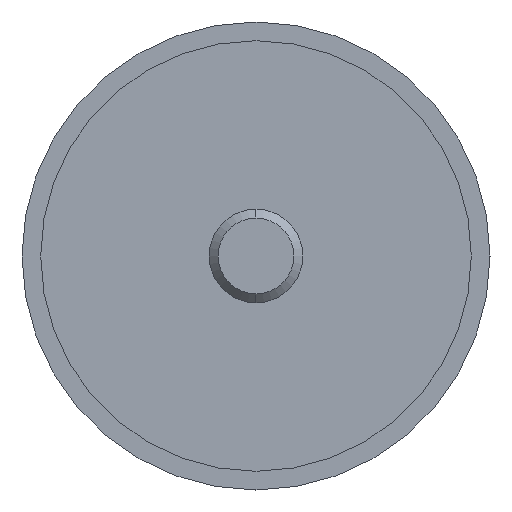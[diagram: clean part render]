
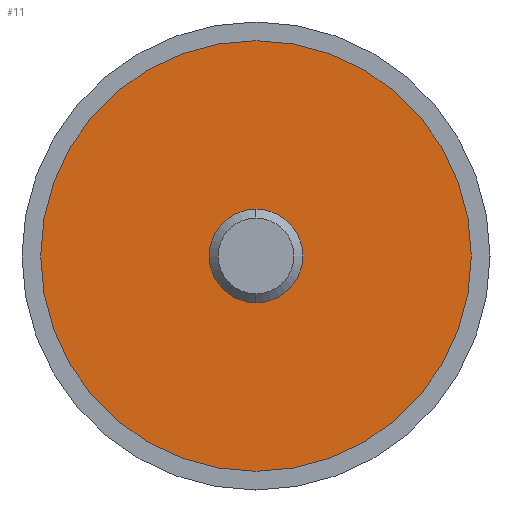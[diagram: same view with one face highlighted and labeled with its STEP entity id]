
A CAD part, left-side view. The second image highlights one B-rep face of the part: STEP entity #11.
In plain terms, the highlighted planar face has unit normal (-1, 0, 0).
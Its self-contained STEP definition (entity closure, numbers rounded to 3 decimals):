
#11 = ADVANCED_FACE ( 'NONE', ( #302, #249 ), #47, .F. ) ;
#34 = CARTESIAN_POINT ( 'NONE',  ( -24.99, 0., 0. ) ) ;
#42 = VERTEX_POINT ( 'NONE', #671 ) ;
#47 = PLANE ( 'NONE',  #540 ) ;
#56 = AXIS2_PLACEMENT_3D ( 'NONE', #395, #240, #89 ) ;
#89 = DIRECTION ( 'NONE',  ( 0., 0., -1. ) ) ;
#102 = CIRCLE ( 'NONE', #319, 5. ) ;
#114 = CARTESIAN_POINT ( 'NONE',  ( -24.99, 0., 0. ) ) ;
#129 = DIRECTION ( 'NONE',  ( -1., 0., 0. ) ) ;
#147 = DIRECTION ( 'NONE',  ( 0., 0., -1. ) ) ;
#154 = ORIENTED_EDGE ( 'NONE', *, *, #163, .T. ) ;
#163 = EDGE_CURVE ( 'NONE', #42, #272, #459, .T. ) ;
#167 = DIRECTION ( 'NONE',  ( 0., 0., 1. ) ) ;
#199 = DIRECTION ( 'NONE',  ( 1., 0., 0. ) ) ;
#205 = ORIENTED_EDGE ( 'NONE', *, *, #516, .F. ) ;
#215 = VERTEX_POINT ( 'NONE', #413 ) ;
#240 = DIRECTION ( 'NONE',  ( -1., 0., 0. ) ) ;
#247 = CARTESIAN_POINT ( 'NONE',  ( -24.99, 0., 0. ) ) ;
#248 = DIRECTION ( 'NONE',  ( 0., 0., 1. ) ) ;
#249 = FACE_BOUND ( 'NONE', #554, .T. ) ;
#265 = AXIS2_PLACEMENT_3D ( 'NONE', #34, #129, #248 ) ;
#272 = VERTEX_POINT ( 'NONE', #579 ) ;
#274 = DIRECTION ( 'NONE',  ( -1., 0., 0. ) ) ;
#302 = FACE_OUTER_BOUND ( 'NONE', #452, .T. ) ;
#319 = AXIS2_PLACEMENT_3D ( 'NONE', #247, #415, #147 ) ;
#376 = VERTEX_POINT ( 'NONE', #551 ) ;
#395 = CARTESIAN_POINT ( 'NONE',  ( -24.99, 0., 0. ) ) ;
#396 = EDGE_CURVE ( 'NONE', #376, #215, #672, .T. ) ;
#398 = ORIENTED_EDGE ( 'NONE', *, *, #663, .T. ) ;
#413 = CARTESIAN_POINT ( 'NONE',  ( -24.99, 0., -5. ) ) ;
#415 = DIRECTION ( 'NONE',  ( -1., 0., 0. ) ) ;
#448 = CIRCLE ( 'NONE', #651, 23. ) ;
#452 = EDGE_LOOP ( 'NONE', ( #398, #154 ) ) ;
#459 = CIRCLE ( 'NONE', #265, 23. ) ;
#474 = ORIENTED_EDGE ( 'NONE', *, *, #396, .F. ) ;
#516 = EDGE_CURVE ( 'NONE', #215, #376, #102, .T. ) ;
#540 = AXIS2_PLACEMENT_3D ( 'NONE', #659, #199, #561 ) ;
#551 = CARTESIAN_POINT ( 'NONE',  ( -24.99, 0., 5. ) ) ;
#554 = EDGE_LOOP ( 'NONE', ( #474, #205 ) ) ;
#561 = DIRECTION ( 'NONE',  ( 0., 0., -1. ) ) ;
#579 = CARTESIAN_POINT ( 'NONE',  ( -24.99, 0., 23. ) ) ;
#651 = AXIS2_PLACEMENT_3D ( 'NONE', #114, #274, #167 ) ;
#659 = CARTESIAN_POINT ( 'NONE',  ( -24.99, 23., 0. ) ) ;
#663 = EDGE_CURVE ( 'NONE', #272, #42, #448, .T. ) ;
#671 = CARTESIAN_POINT ( 'NONE',  ( -24.99, 0., -23. ) ) ;
#672 = CIRCLE ( 'NONE', #56, 5. ) ;
